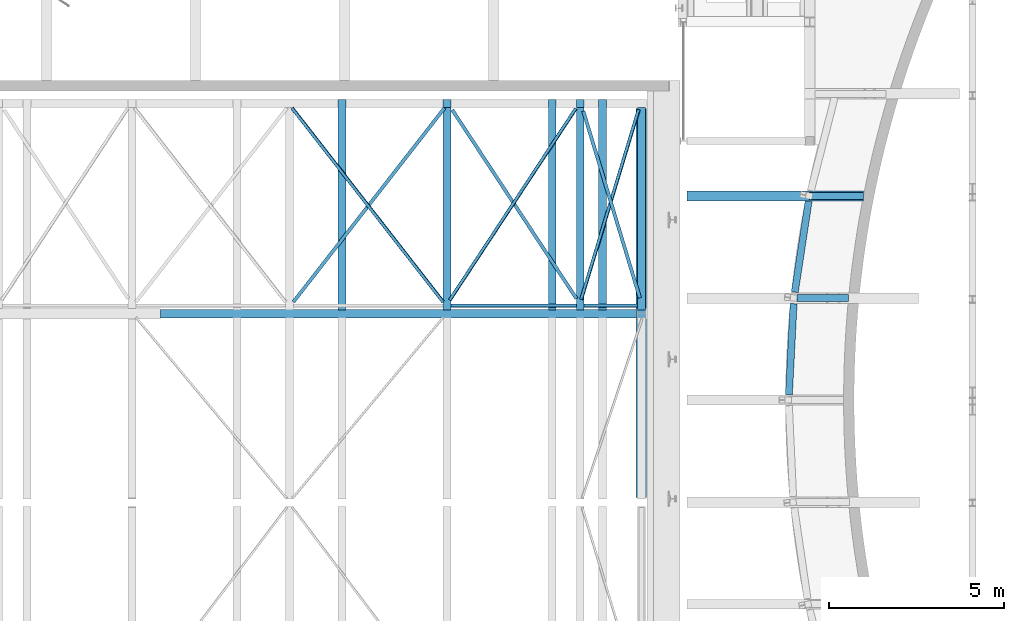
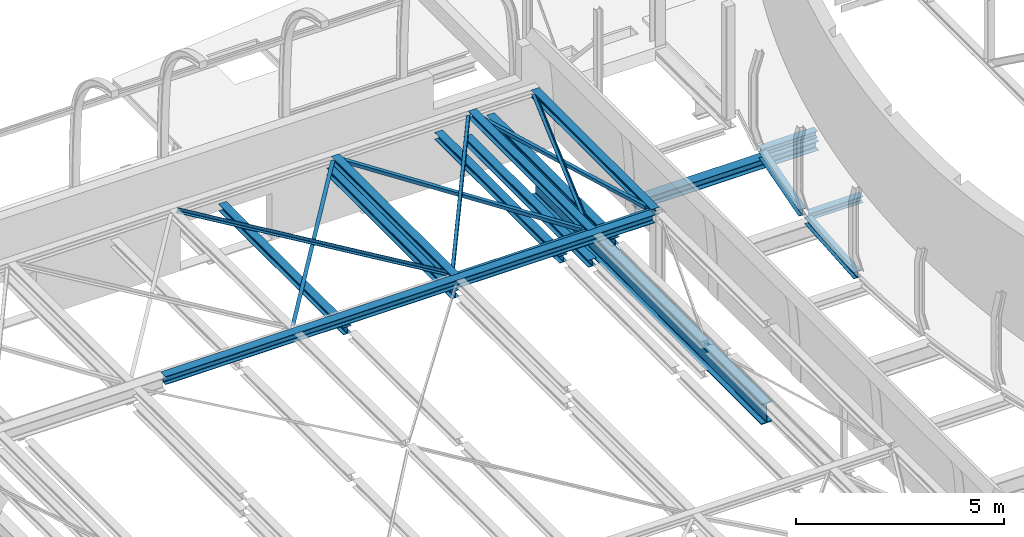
# One storey, part 17 of 38: 23 beams.
"""IFC2X3 building model written with IfcOpenShell, lengths in millimetres."""

from ifc_helpers import new_model, entity, si_unit, converted_unit, derived_unit, direction, frame, frame_2d, origin, place, context, subcontext, project, spatial, polyline, circle_curve, parameter, trimmed, segment, composite_curve, i_section, outline, extrude, material, type_object, element, save


model = new_model("IFC2X3")

# Units and contexts
model_context = context("Model", 3, precision=0.01, world=origin(), true_north=direction((6.12303176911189e-17, 1.0)))
body_context = subcontext(model_context, "Body", "Model", "MODEL_VIEW")
ifc_project = project(units=[si_unit("LENGTHUNIT", "METRE", prefix="MILLI"), si_unit("AREAUNIT", "SQUARE_METRE", prefix="MILLI"), si_unit("VOLUMEUNIT", "CUBIC_METRE"), converted_unit("PLANEANGLEUNIT", "DEGREE", entity("IfcRatioMeasure", 0.0174532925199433), si_unit("PLANEANGLEUNIT", "RADIAN"), dimensions=[0, 0, 0, 0, 0, 0, 0]), si_unit("MASSUNIT", "GRAM", prefix="KILO"), derived_unit("MASSDENSITYUNIT", [(si_unit("MASSUNIT", "GRAM", prefix="KILO"), 1), (si_unit("LENGTHUNIT", "METRE"), -3)]), derived_unit("MOMENTOFINERTIAUNIT", [(si_unit("LENGTHUNIT", "METRE"), 4)]), si_unit("TIMEUNIT", "SECOND"), si_unit("FREQUENCYUNIT", "HERTZ"), si_unit("THERMODYNAMICTEMPERATUREUNIT", "DEGREE_CELSIUS"), derived_unit("THERMALTRANSMITTANCEUNIT", [(si_unit("MASSUNIT", "GRAM", prefix="KILO"), 1), (si_unit("THERMODYNAMICTEMPERATUREUNIT", "KELVIN"), -1), (si_unit("TIMEUNIT", "SECOND"), -3)]), derived_unit("VOLUMETRICFLOWRATEUNIT", [(si_unit("LENGTHUNIT", "METRE"), 3), (si_unit("TIMEUNIT", "SECOND"), -1)]), si_unit("ELECTRICCURRENTUNIT", "AMPERE"), si_unit("ELECTRICVOLTAGEUNIT", "VOLT"), si_unit("POWERUNIT", "WATT"), si_unit("FORCEUNIT", "NEWTON", prefix="KILO"), si_unit("ILLUMINANCEUNIT", "LUX"), si_unit("LUMINOUSFLUXUNIT", "LUMEN"), si_unit("LUMINOUSINTENSITYUNIT", "CANDELA"), derived_unit("USERDEFINED", [(si_unit("MASSUNIT", "GRAM", prefix="KILO"), -1), (si_unit("LENGTHUNIT", "METRE"), -2), (si_unit("TIMEUNIT", "SECOND"), 3), (si_unit("LUMINOUSFLUXUNIT", "LUMEN"), 1)]), derived_unit("LINEARVELOCITYUNIT", [(si_unit("LENGTHUNIT", "METRE"), 1), (si_unit("TIMEUNIT", "SECOND"), -1)]), si_unit("PRESSUREUNIT", "PASCAL"), derived_unit("USERDEFINED", [(si_unit("LENGTHUNIT", "METRE"), -2), (si_unit("MASSUNIT", "GRAM", prefix="KILO"), 1), (si_unit("TIMEUNIT", "SECOND"), -2)]), derived_unit("LINEARFORCEUNIT", [(si_unit("MASSUNIT", "GRAM", prefix="KILO"), 1), (si_unit("LENGTHUNIT", "METRE"), 1), (si_unit("TIMEUNIT", "SECOND"), -2), (si_unit("LENGTHUNIT", "METRE"), -1)]), derived_unit("PLANARFORCEUNIT", [(si_unit("MASSUNIT", "GRAM", prefix="KILO"), 1), (si_unit("LENGTHUNIT", "METRE"), 1), (si_unit("TIMEUNIT", "SECOND"), -2), (si_unit("LENGTHUNIT", "METRE"), -2)])], contexts=[model_context])

# Site, building, storey
site_placement = place(None, origin())
site = spatial("IfcSite", under=ifc_project, at=site_placement, Name="Theater aan de Parade", CompositionType="ELEMENT")
building_placement = place(site_placement, origin())
building = spatial("IfcBuilding", under=site, at=building_placement, Name="Theater aan de Parade", CompositionType="ELEMENT")
storey_placement = place(building_placement, frame((0.0, 0.0, 12480.0)))
storey = spatial("IfcBuildingStorey", under=building, at=storey_placement, Name="03 derde verdieping", CompositionType="ELEMENT", Elevation=12480.0)

# Beams
ifc_material = material(Name="00_PBT_MAT_staal_S355")
beam_type_1 = type_object("IfcBeamType", Name="28_PBT_SF_staal_H-profiel:S355_HE220A", PredefinedType="NOTDEFINED")
beam_1_placement = place(storey_placement, frame((36153.8581300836, 40813.308327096, 1930.0), z_axis=(0.0, 0.0, 1.0), x_axis=(0.0, -1.0, 0.0)))
element("IfcBeam", 1, at=beam_1_placement, inside=storey, type_object=beam_type_1, material=ifc_material, Name="28_PBT_SF_staal_H-profiel:S355_HE220A", ObjectType="28_PBT_SF_staal_H-profiel:S355_HE220A", context=body_context, shape_type="SweptSolid", body=[
    extrude(i_section(OverallWidth=220.000000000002, OverallDepth=210.0, WebThickness=7.00000000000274, FlangeThickness=10.9999999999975, FilletRadius=18.0000000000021, at=frame_2d((0.0, 2.16715534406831e-12), x_axis=(0.0, 1.0))), frame((0.0, 0.0, -105.0), z_axis=(1.0, 0.0, 0.0), x_axis=(0.0, 0.0, -1.0)), (0.0, 0.0, 1.0), 5785.01602859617),
])
beam_2_placement = place(storey_placement, frame((30603.8570025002, 40813.308327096, 1930.0), z_axis=(0.0, 0.0, 1.0), x_axis=(0.0, -1.0, 0.0)))
element("IfcBeam", 2, at=beam_2_placement, inside=storey, type_object=beam_type_1, material=ifc_material, Name="28_PBT_SF_staal_H-profiel:S355_HE220A", ObjectType="28_PBT_SF_staal_H-profiel:S355_HE220A", context=body_context, shape_type="SweptSolid", body=[
    extrude(i_section(OverallWidth=220.000000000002, OverallDepth=210.0, WebThickness=7.00000000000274, FlangeThickness=10.9999999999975, FilletRadius=18.0000000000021, at=frame_2d((0.0, -6.50146603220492e-12), x_axis=(0.0, 1.0))), frame((0.0, 0.0, -105.0), z_axis=(1.0, 0.0, 0.0), x_axis=(0.0, 0.0, -1.0)), (0.0, 0.0, 1.0), 5785.01602859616),
])
beam_3_placement = place(storey_placement, frame((34405.85634631, 40813.308327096, 1930.0), z_axis=(0.0, 0.0, 1.0), x_axis=(0.0, -1.0, 0.0)))
element("IfcBeam", 3, at=beam_3_placement, inside=storey, type_object=beam_type_1, material=ifc_material, Name="28_PBT_SF_staal_H-profiel:S355_HE220A", ObjectType="28_PBT_SF_staal_H-profiel:S355_HE220A", context=body_context, shape_type="SweptSolid", body=[
    extrude(i_section(OverallWidth=220.000000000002, OverallDepth=210.0, WebThickness=7.00000000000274, FlangeThickness=10.9999999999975, FilletRadius=18.0000000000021, at=frame_2d((0.0, 2.16715534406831e-12), x_axis=(0.0, 1.0))), frame((0.0, 0.0, -105.0), z_axis=(1.0, 0.0, 0.0), x_axis=(0.0, 0.0, -1.0)), (0.0, 0.0, 1.0), 5785.01602859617),
])
beam_4_placement = place(storey_placement, frame((27603.8563463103, 41033.308327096, 1930.0), z_axis=(0.0, 0.0, 1.0), x_axis=(0.0, -1.0, 0.0)))
element("IfcBeam", 4, at=beam_4_placement, inside=storey, type_object=beam_type_1, material=ifc_material, Name="28_PBT_SF_staal_H-profiel:S355_HE220A", ObjectType="28_PBT_SF_staal_H-profiel:S355_HE220A", context=body_context, shape_type="SweptSolid", body=[
    extrude(i_section(OverallWidth=220.000000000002, OverallDepth=210.0, WebThickness=7.00000000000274, FlangeThickness=10.9999999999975, FilletRadius=18.0000000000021, at=frame_2d((-2.16715534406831e-12, -2.16715534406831e-12), x_axis=(0.0, 1.0))), frame((0.0, 0.0, -585.0), z_axis=(1.0, 0.0, 0.0), x_axis=(0.0, 0.0, -1.0)), (0.0, 0.0, 1.0), 6005.01602859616),
])
beam_5_placement = place(storey_placement, frame((33603.8563463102, 41033.308327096, 1930.0), z_axis=(0.0, 0.0, 1.0), x_axis=(0.0, -1.0, 0.0)))
element("IfcBeam", 5, at=beam_5_placement, inside=storey, type_object=beam_type_1, material=ifc_material, Name="28_PBT_SF_staal_H-profiel:S355_HE220A", ObjectType="28_PBT_SF_staal_H-profiel:S355_HE220A", context=body_context, shape_type="SweptSolid", body=[
    extrude(i_section(OverallWidth=220.000000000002, OverallDepth=210.0, WebThickness=7.00000000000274, FlangeThickness=10.9999999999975, FilletRadius=18.0000000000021, at=frame_2d((-2.16715534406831e-12, 2.16715534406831e-12), x_axis=(0.0, 1.0))), frame((0.0, 0.0, -585.0), z_axis=(1.0, 0.0, 0.0), x_axis=(0.0, 0.0, -1.0)), (0.0, 0.0, 1.0), 6005.01602859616),
])
beam_6_placement = place(storey_placement, frame((35043.8557463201, 41033.308327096, 1930.0), z_axis=(0.0, 0.0, 1.0), x_axis=(0.0, -1.0, 0.0)))
element("IfcBeam", 6, at=beam_6_placement, inside=storey, type_object=beam_type_1, material=ifc_material, Name="28_PBT_SF_staal_H-profiel:S355_HE220A", ObjectType="28_PBT_SF_staal_H-profiel:S355_HE220A", context=body_context, shape_type="SweptSolid", body=[
    extrude(i_section(OverallWidth=220.000000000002, OverallDepth=210.0, WebThickness=7.00000000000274, FlangeThickness=10.9999999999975, FilletRadius=18.0000000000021, at=frame_2d((-2.16715534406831e-12, -6.50146603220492e-12), x_axis=(0.0, 1.0))), frame((0.0, 0.0, -585.0), z_axis=(1.0, 0.0, 0.0), x_axis=(0.0, 0.0, -1.0)), (0.0, 0.0, 1.0), 6005.01602859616),
])
beam_7_placement = place(storey_placement, frame((30603.8570025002, 41033.308327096, 1930.0), z_axis=(0.0, 0.0, 1.0), x_axis=(0.0, -1.0, 0.0)))
element("IfcBeam", 7, at=beam_7_placement, inside=storey, type_object=beam_type_1, material=ifc_material, Name="28_PBT_SF_staal_H-profiel:S355_HE220A", ObjectType="28_PBT_SF_staal_H-profiel:S355_HE220A", context=body_context, shape_type="SweptSolid", body=[
    extrude(i_section(OverallWidth=220.000000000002, OverallDepth=210.0, WebThickness=7.00000000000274, FlangeThickness=10.9999999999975, FilletRadius=18.0000000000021, at=frame_2d((0.0, 2.16715534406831e-12), x_axis=(0.0, 1.0))), frame((0.0, 0.0, -585.0), z_axis=(1.0, 0.0, 0.0), x_axis=(0.0, 0.0, -1.0)), (0.0, 0.0, 1.0), 6005.01602859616),
])
beam_8_placement = place(storey_placement, frame((34405.85634631, 41033.308327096, 1930.0), z_axis=(0.0, 0.0, 1.0), x_axis=(0.0, -1.0, 0.0)))
element("IfcBeam", 8, at=beam_8_placement, inside=storey, type_object=beam_type_1, material=ifc_material, Name="28_PBT_SF_staal_H-profiel:S355_HE220A", ObjectType="28_PBT_SF_staal_H-profiel:S355_HE220A", context=body_context, shape_type="SweptSolid", body=[
    extrude(i_section(OverallWidth=220.000000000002, OverallDepth=210.0, WebThickness=7.00000000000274, FlangeThickness=10.9999999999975, FilletRadius=18.0000000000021, at=frame_2d((0.0, 6.50146603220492e-12), x_axis=(0.0, 1.0))), frame((0.0, 0.0, -985.0), z_axis=(1.0, 0.0, 0.0), x_axis=(0.0, 0.0, -1.0)), (0.0, 0.0, 1.0), 6005.01602859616),
])
beam_type_2 = type_object("IfcBeamType", Name="28_PBT_SF_staal_H-profiel:S355_HE600B", PredefinedType="NOTDEFINED")
beam_9_placement = place(storey_placement, frame((36153.8581300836, 29658.2922984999, 0.0), z_axis=(0.0, 0.0, 1.0), x_axis=(0.0, 1.0, 0.0)))
element("IfcBeam", 9, at=beam_9_placement, inside=storey, type_object=beam_type_2, material=ifc_material, Name="28_PBT_SF_staal_H-profiel:S355_HE600B", ObjectType="28_PBT_SF_staal_H-profiel:S355_HE600B", context=body_context, shape_type="SweptSolid", body=[
    extrude(outline(composite_curve([segment(polyline([(270.0, -150.0), (300.0, -150.0)]), True, "CONTINUOUS"), segment(polyline([(300.0, -150.0), (300.0, 150.0)]), True, "CONTINUOUS"), segment(polyline([(300.0, 150.0), (270.0, 150.0)]), True, "CONTINUOUS"), segment(polyline([(270.0, 150.0), (270.0, 34.7500000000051)]), True, "CONTINUOUS"), segment(trimmed(circle_curve(frame_2d((243.0, 34.7500000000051), x_axis=(1.0, 0.0)), 26.9999999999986), [parameter(269.999999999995)], [parameter(0.0)], True, "PARAMETER"), False, "CONTINUOUS"), segment(polyline([(243.0, 7.7500000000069), (-243.0, 7.7500000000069)]), True, "CONTINUOUS"), segment(trimmed(circle_curve(frame_2d((-243.0, 34.7500000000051), x_axis=(0.0, -1.0)), 26.9999999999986), [parameter(269.999999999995)], [parameter(0.0)], True, "PARAMETER"), False, "CONTINUOUS"), segment(polyline([(-270.0, 34.7500000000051), (-270.0, 150.0)]), True, "CONTINUOUS"), segment(polyline([(-270.0, 150.0), (-300.0, 150.0)]), True, "CONTINUOUS"), segment(polyline([(-300.0, 150.0), (-300.0, -150.0)]), True, "CONTINUOUS"), segment(polyline([(-300.0, -150.0), (-270.0, -150.0)]), True, "CONTINUOUS"), segment(polyline([(-270.0, -150.0), (-270.0, -34.7499999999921)]), True, "CONTINUOUS"), segment(trimmed(circle_curve(frame_2d((-243.0, -34.7499999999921), x_axis=(-1.0, 0.0)), 26.9999999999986), [parameter(269.999999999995)], [parameter(0.0)], True, "PARAMETER"), False, "CONTINUOUS"), segment(polyline([(-243.0, -7.74999999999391), (243.0, -7.74999999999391)]), True, "CONTINUOUS"), segment(trimmed(circle_curve(frame_2d((243.0, -34.7499999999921), x_axis=(0.0, 1.0)), 26.9999999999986), [parameter(269.999999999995)], [parameter(0.0)], True, "PARAMETER"), False, "CONTINUOUS"), segment(polyline([(270.0, -34.7499999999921), (270.0, -150.0)]), True, "CONTINUOUS")], self_intersect=False)), frame((12.7000006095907, 0.0, -830.0), z_axis=(1.0, 0.0, 0.0), x_axis=(0.0, 0.0, -1.0)), (0.0, 0.0, 1.0), 11112.3160279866),
])
beam_type_3 = type_object("IfcBeamType", Name="28_PBT_SF_staal_H-profiel:S355_HE200A", PredefinedType="NOTDEFINED")
beam_10_placement = place(storey_placement, frame((40929.7205975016, 38128.3319899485, 0.0), z_axis=(0.0, 0.0, 1.0), x_axis=(-0.15010695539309, -0.988669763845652, 0.0)))
element("IfcBeam", 10, at=beam_10_placement, inside=storey, type_object=beam_type_3, material=ifc_material, Name="28_PBT_SF_staal_H-profiel:S355_HE200A", ObjectType="28_PBT_SF_staal_H-profiel:S355_HE200A", context=body_context, shape_type="SweptSolid", body=[
    extrude(i_section(OverallWidth=199.999999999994, OverallDepth=190.0, WebThickness=6.49999999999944, FlangeThickness=9.99999999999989, FilletRadius=18.0000000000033, at=frame_2d((-2.16715534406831e-12, 0.0), x_axis=(0.0, 1.0))), frame((0.0, 0.0, -25.0), z_axis=(1.0, 0.0, 0.0), x_axis=(0.0, 0.0, -1.0)), (0.0, 0.0, 1.0), 2625.0),
])
beam_11_placement = place(storey_placement, frame((40500.8443361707, 35201.3286349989, 0.0), z_axis=(0.0, 0.0, 1.0), x_axis=(-0.0516087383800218, -0.998667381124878, 0.0)))
element("IfcBeam", 11, at=beam_11_placement, inside=storey, type_object=beam_type_3, material=ifc_material, Name="28_PBT_SF_staal_H-profiel:S355_HE200A", ObjectType="28_PBT_SF_staal_H-profiel:S355_HE200A", context=body_context, shape_type="SweptSolid", body=[
    extrude(i_section(OverallWidth=199.999999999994, OverallDepth=190.0, WebThickness=6.4999999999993, FlangeThickness=9.99999999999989, FilletRadius=18.0000000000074, at=frame_2d((-2.16715534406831e-12, -4.32720526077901e-12), x_axis=(0.0, 1.0))), frame((0.0, 0.0, -25.0), z_axis=(1.0, 0.0, 0.0), x_axis=(0.0, 0.0, -1.0)), (0.0, 0.0, 1.0), 2605.00000000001),
])
beam_12_placement = place(storey_placement, frame((40592.5436905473, 35365.0, 0.0)))
element("IfcBeam", 12, at=beam_12_placement, inside=storey, type_object=beam_type_3, material=ifc_material, Name="28_PBT_SF_staal_H-profiel:S355_HE200A", ObjectType="28_PBT_SF_staal_H-profiel:S355_HE200A", context=body_context, shape_type="SweptSolid", body=[
    extrude(i_section(OverallWidth=200.000000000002, OverallDepth=190.0, WebThickness=6.50000000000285, FlangeThickness=9.99999999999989, FilletRadius=18.0000000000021, at=frame_2d((-2.16715534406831e-12, 2.16715534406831e-12), x_axis=(0.0, 1.0))), frame((0.0, 0.0, -25.0), z_axis=(1.0, 0.0, 0.0), x_axis=(0.0, 0.0, -1.0)), (0.0, 0.0, 1.0), 1477.86083352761),
])
beam_13_placement = place(storey_placement, frame((40947.0612102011, 38280.0, 0.0)))
element("IfcBeam", 13, at=beam_13_placement, inside=storey, type_object=beam_type_3, material=ifc_material, Name="28_PBT_SF_staal_H-profiel:S355_HE200A", ObjectType="28_PBT_SF_staal_H-profiel:S355_HE200A", context=body_context, shape_type="SweptSolid", body=[
    extrude(i_section(OverallWidth=200.000000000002, OverallDepth=190.0, WebThickness=6.50000000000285, FlangeThickness=9.99999999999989, FilletRadius=18.0000000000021, at=frame_2d((-2.16715534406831e-12, -2.16715534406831e-12), x_axis=(0.0, 1.0))), frame((0.0, 0.0, -25.0), z_axis=(1.0, 0.0, 0.0), x_axis=(0.0, 0.0, -1.0)), (0.0, 0.0, 1.0), 1545.48248034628),
])
beam_type_4 = type_object("IfcBeamType", Name="28_PBT_SF_staal_H-profiel:S355_HE240B", PredefinedType="NOTDEFINED")
beam_14_placement = place(storey_placement, frame((22419.8569884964, 34918.2922984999, 1810.0)))
element("IfcBeam", 14, at=beam_14_placement, inside=storey, type_object=beam_type_4, material=ifc_material, Name="28_PBT_SF_staal_H-profiel:S355_HE240B", ObjectType="28_PBT_SF_staal_H-profiel:S355_HE240B", context=body_context, shape_type="SweptSolid", body=[
    extrude(i_section(OverallWidth=240.000000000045, OverallDepth=240.0, WebThickness=9.9999999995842, FlangeThickness=16.9999999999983, FilletRadius=21.0000000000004, at=frame_2d((-1.08002495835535e-12, 2.16715534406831e-12), x_axis=(0.0, 1.0))), frame((0.0, 0.0, 0.0), z_axis=(1.0, 0.0, 0.0), x_axis=(0.0, 0.0, -1.0)), (0.0, 0.0, 1.0), 13594.0),
])
beam_type_5 = type_object("IfcBeamType", Name="28_PBT_SF_staal_L-profiel:S355_L100x100x10", PredefinedType="NOTDEFINED")
beam_15_placement = place(storey_placement, frame((30603.8570025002, 35146.2906195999, 1930.0), z_axis=(0.0, 0.0, 1.0), x_axis=(-0.614515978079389, 0.788904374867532, 0.0)))
element("IfcBeam", 15, at=beam_15_placement, inside=storey, type_object=beam_type_5, material=ifc_material, Name="28_PBT_SF_staal_L-profiel:S355_L100x100x10", ObjectType="28_PBT_SF_staal_L-profiel:S355_L100x100x10", context=body_context, shape_type="SweptSolid", body=[
    extrude(outline(composite_curve([segment(polyline([(-62.2222222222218, -37.777777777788), (37.7777777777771, -37.777777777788)]), True, "CONTINUOUS"), segment(polyline([(37.7777777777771, -37.777777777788), (37.7777777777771, 62.2222222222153)]), True, "CONTINUOUS"), segment(polyline([(37.7777777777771, 62.2222222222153), (33.777777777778, 62.2222222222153)]), True, "CONTINUOUS"), segment(trimmed(circle_curve(frame_2d((33.777777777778, 56.2222222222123), x_axis=(0.0, 1.0)), 5.99999999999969), [parameter(0.0)], [parameter(90.0000000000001)], True, "PARAMETER"), True, "CONTINUOUS"), segment(polyline([(27.7777777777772, 56.2222222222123), (27.7777777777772, -15.7777777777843)]), True, "CONTINUOUS"), segment(trimmed(circle_curve(frame_2d((15.7777777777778, -15.7777777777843), x_axis=(1.0, 0.0)), 12.0000000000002), [parameter(270.000000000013)], [parameter(0.0)], True, "PARAMETER"), False, "CONTINUOUS"), segment(polyline([(15.7777777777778, -27.7777777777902), (-56.2222222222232, -27.7777777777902)]), True, "CONTINUOUS"), segment(trimmed(circle_curve(frame_2d((-56.2222222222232, -33.7777777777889), x_axis=(0.0, 1.0)), 6.00000000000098), [parameter(0.0)], [parameter(89.9999999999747)], True, "PARAMETER"), True, "CONTINUOUS"), segment(polyline([(-62.2222222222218, -33.7777777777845), (-62.2222222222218, -37.777777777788)]), True, "CONTINUOUS")], self_intersect=False)), frame((150.0, 9.57777777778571, -67.2222222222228), z_axis=(1.0, 0.0, 0.0), x_axis=(0.0, 0.0, -1.0)), (0.0, 0.0, 1.0), 7022.83644448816),
])
beam_16_placement = place(storey_placement, frame((26103.8570025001, 35146.2906196, 1930.0), z_axis=(0.0, 0.0, 1.0), x_axis=(0.614515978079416, 0.788904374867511, 0.0)))
element("IfcBeam", 16, at=beam_16_placement, inside=storey, type_object=beam_type_5, material=ifc_material, Name="28_PBT_SF_staal_L-profiel:S355_L100x100x10", ObjectType="28_PBT_SF_staal_L-profiel:S355_L100x100x10", context=body_context, shape_type="SweptSolid", body=[
    extrude(outline(composite_curve([segment(polyline([(-37.777777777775, -62.2222222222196), (-33.7777777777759, -62.2222222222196)]), True, "CONTINUOUS"), segment(trimmed(circle_curve(frame_2d((-33.7777777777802, -56.2222222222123), x_axis=(0.0, -1.0)), 6.000000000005), [parameter(0.0)], [parameter(89.9999999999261)], True, "PARAMETER"), True, "CONTINUOUS"), segment(polyline([(-27.7777777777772, -56.2222222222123), (-27.7777777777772, 15.77777777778)]), True, "CONTINUOUS"), segment(trimmed(circle_curve(frame_2d((-15.7777777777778, 15.77777777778), x_axis=(-1.0, 0.0)), 11.9999999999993), [parameter(270.0)], [parameter(0.0)], True, "PARAMETER"), False, "CONTINUOUS"), segment(polyline([(-15.7777777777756, 27.7777777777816), (56.2222222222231, 27.7777777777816)]), True, "CONTINUOUS"), segment(trimmed(circle_curve(frame_2d((56.2222222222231, 33.7777777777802), x_axis=(0.0, -1.0)), 5.99999999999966), [parameter(0.0)], [parameter(90.0000000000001)], True, "PARAMETER"), True, "CONTINUOUS"), segment(polyline([(62.2222222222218, 33.7777777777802), (62.2222222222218, 37.7777777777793)]), True, "CONTINUOUS"), segment(polyline([(62.2222222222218, 37.7777777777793), (-37.7777777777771, 37.7777777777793)]), True, "CONTINUOUS"), segment(polyline([(-37.7777777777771, 37.7777777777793), (-37.7777777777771, -62.2222222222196)]), True, "CONTINUOUS")], self_intersect=False)), frame((150.0, -9.57777777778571, -144.577777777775), z_axis=(1.0, 0.0, 0.0), x_axis=(0.0, 0.0, -1.0)), (0.0, 0.0, 1.0), 7022.83644448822),
])
beam_17_placement = place(storey_placement, frame((34405.85634631, 40923.308327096, 1930.0), z_axis=(0.0, 0.0, 1.0), x_axis=(-0.549750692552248, -0.835328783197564, 0.0)))
element("IfcBeam", 17, at=beam_17_placement, inside=storey, type_object=beam_type_5, material=ifc_material, Name="28_PBT_SF_staal_L-profiel:S355_L100x100x10", ObjectType="28_PBT_SF_staal_L-profiel:S355_L100x100x10", context=body_context, shape_type="SweptSolid", body=[
    extrude(outline(composite_curve([segment(polyline([(33.777777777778, -62.2222222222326), (37.7777777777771, -62.2222222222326)]), True, "CONTINUOUS"), segment(polyline([(37.7777777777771, -62.2222222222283), (37.7777777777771, 37.777777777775)]), True, "CONTINUOUS"), segment(polyline([(37.7777777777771, 37.777777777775), (-62.2222222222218, 37.777777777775)]), True, "CONTINUOUS"), segment(polyline([(-62.2222222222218, 37.777777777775), (-62.2222222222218, 33.7777777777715)]), True, "CONTINUOUS"), segment(trimmed(circle_curve(frame_2d((-56.222222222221, 33.7777777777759), x_axis=(-1.0, 0.0)), 6.00000000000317), [parameter(0.0)], [parameter(89.9999999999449)], True, "PARAMETER"), True, "CONTINUOUS"), segment(polyline([(-56.2222222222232, 27.7777777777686), (15.7777777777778, 27.7777777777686)]), True, "CONTINUOUS"), segment(trimmed(circle_curve(frame_2d((15.77777777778, 15.777777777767), x_axis=(0.0, 1.0)), 11.9999999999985), [parameter(269.99999999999)], [parameter(0.0)], True, "PARAMETER"), False, "CONTINUOUS"), segment(polyline([(27.7777777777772, 15.777777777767), (27.7777777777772, -56.222222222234)]), True, "CONTINUOUS"), segment(trimmed(circle_curve(frame_2d((33.7777777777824, -56.222222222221), x_axis=(-1.0, 0.0)), 6.00000000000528), [parameter(0.0)], [parameter(89.9999999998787)], True, "PARAMETER"), True, "CONTINUOUS")], self_intersect=False)), frame((190.660842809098, -9.57777777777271, -67.2222222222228), z_axis=(1.0, 0.0, 0.0), x_axis=(0.0, 0.0, -1.0)), (0.0, 0.0, 1.0), 6549.24835976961),
])
beam_18_placement = place(storey_placement, frame((30603.8563463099, 40923.308327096, 1930.0), z_axis=(0.0, 0.0, 1.0), x_axis=(0.549750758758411, -0.835328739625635, 0.0)))
element("IfcBeam", 18, at=beam_18_placement, inside=storey, type_object=beam_type_5, material=ifc_material, Name="28_PBT_SF_staal_L-profiel:S355_L100x100x10", ObjectType="28_PBT_SF_staal_L-profiel:S355_L100x100x10", context=body_context, shape_type="SweptSolid", body=[
    extrude(outline(composite_curve([segment(polyline([(-37.7777777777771, -37.777777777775), (62.2222222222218, -37.777777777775)]), True, "CONTINUOUS"), segment(polyline([(62.2222222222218, -37.777777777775), (62.2222222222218, -33.7777777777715)]), True, "CONTINUOUS"), segment(trimmed(circle_curve(frame_2d((56.2222222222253, -33.7777777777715), x_axis=(1.0, 0.0)), 5.99999999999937), [parameter(0.0)], [parameter(90.0000000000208)], True, "PARAMETER"), True, "CONTINUOUS"), segment(polyline([(56.2222222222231, -27.7777777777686), (-15.7777777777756, -27.7777777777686)]), True, "CONTINUOUS"), segment(trimmed(circle_curve(frame_2d((-15.7777777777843, -15.7777777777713), x_axis=(0.0, -1.0)), 11.9999999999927), [parameter(269.999999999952)], [parameter(0.0)], True, "PARAMETER"), False, "CONTINUOUS"), segment(polyline([(-27.7777777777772, -15.777777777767), (-27.7777777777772, 56.222222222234)]), True, "CONTINUOUS"), segment(trimmed(circle_curve(frame_2d((-33.7777777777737, 56.2222222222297), x_axis=(1.0, 0.0)), 5.99999999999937), [parameter(0.0)], [parameter(90.0000000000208)], True, "PARAMETER"), True, "CONTINUOUS"), segment(polyline([(-33.7777777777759, 62.2222222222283), (-37.777777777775, 62.2222222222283)]), True, "CONTINUOUS"), segment(polyline([(-37.7777777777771, 62.2222222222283), (-37.7777777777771, -37.777777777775)]), True, "CONTINUOUS")], self_intersect=False)), frame((235.529860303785, 9.57777777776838, -144.577777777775), z_axis=(1.0, 0.0, 0.0), x_axis=(0.0, 0.0, -1.0)), (0.0, 0.0, 1.0), 6454.54412103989),
])
beam_19_placement = place(storey_placement, frame((36153.8581300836, 40923.308327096, 1930.0), z_axis=(0.0, 0.0, 1.0), x_axis=(-0.289611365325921, -0.957144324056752, 0.0)))
element("IfcBeam", 19, at=beam_19_placement, inside=storey, type_object=beam_type_5, material=ifc_material, Name="28_PBT_SF_staal_L-profiel:S355_L100x100x10", ObjectType="28_PBT_SF_staal_L-profiel:S355_L100x100x10", context=body_context, shape_type="SweptSolid", body=[
    extrude(outline(composite_curve([segment(polyline([(33.777777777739, -62.2222222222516), (37.7777777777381, -62.222222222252)]), True, "CONTINUOUS"), segment(polyline([(37.7777777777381, -62.2222222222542), (37.7777777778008, 37.7777777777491)]), True, "CONTINUOUS"), segment(polyline([(37.7777777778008, 37.7777777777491), (-62.2222222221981, 37.7777777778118)]), True, "CONTINUOUS"), segment(polyline([(-62.2222222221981, 37.7777777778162), (-62.2222222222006, 33.7777777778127)]), True, "CONTINUOUS"), segment(trimmed(circle_curve(frame_2d((-56.222222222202, 33.777777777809), x_axis=(-1.0, 0.0)), 6.00000000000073), [parameter(0.0)], [parameter(90.0000000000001)], True, "PARAMETER"), True, "CONTINUOUS"), segment(polyline([(-56.2222222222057, 27.7777777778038), (15.7777777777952, 27.7777777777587)]), True, "CONTINUOUS"), segment(trimmed(circle_curve(frame_2d((15.7777777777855, 15.7777777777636), x_axis=(0.0, 1.0)), 12.0000000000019), [parameter(270.00000000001)], [parameter(0.0)], True, "PARAMETER"), False, "CONTINUOUS"), segment(polyline([(27.7777777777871, 15.777777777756), (27.777777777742, -56.2222222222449)]), True, "CONTINUOUS"), segment(trimmed(circle_curve(frame_2d((33.7777777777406, -56.2222222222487), x_axis=(-1.0, 0.0)), 5.99999999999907), [parameter(0.0)], [parameter(90.0000000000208)], True, "PARAMETER"), True, "CONTINUOUS")], self_intersect=False)), frame((190.660842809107, -9.57777777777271, -67.2222222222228), z_axis=(1.0, 0.0, 0.0), x_axis=(0.0, 0.0, -1.0)), (0.0, 0.0, 1.0), 5669.06830720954),
])
beam_20_placement = place(storey_placement, frame((34405.8587869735, 40923.308327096, 1930.0), z_axis=(0.0, 0.0, 1.0), x_axis=(0.289610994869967, -0.957144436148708, 0.0)))
element("IfcBeam", 20, at=beam_20_placement, inside=storey, type_object=beam_type_5, material=ifc_material, Name="28_PBT_SF_staal_L-profiel:S355_L100x100x10", ObjectType="28_PBT_SF_staal_L-profiel:S355_L100x100x10", context=body_context, shape_type="SweptSolid", body=[
    extrude(outline(composite_curve([segment(polyline([(-37.7777777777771, -37.7777777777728), (62.2222222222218, -37.7777777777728)]), True, "CONTINUOUS"), segment(polyline([(62.2222222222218, -37.7777777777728), (62.2222222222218, -33.7777777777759)]), True, "CONTINUOUS"), segment(trimmed(circle_curve(frame_2d((56.222222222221, -33.7777777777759), x_axis=(1.0, 0.0)), 6.00000000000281), [parameter(0.0)], [parameter(89.9999999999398)], True, "PARAMETER"), True, "CONTINUOUS"), segment(polyline([(56.2222222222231, -27.7777777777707), (-15.7777777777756, -27.7777777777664)]), True, "CONTINUOUS"), segment(trimmed(circle_curve(frame_2d((-15.77777777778, -15.7777777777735), x_axis=(0.0, -1.0)), 11.9999999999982), [parameter(269.99999999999)], [parameter(0.0)], True, "PARAMETER"), False, "CONTINUOUS"), segment(polyline([(-27.7777777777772, -15.7777777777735), (-27.7777777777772, 56.2222222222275)]), True, "CONTINUOUS"), segment(trimmed(circle_curve(frame_2d((-33.777777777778, 56.2222222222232), x_axis=(1.0, 0.0)), 6.00000000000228), [parameter(0.0)], [parameter(89.9999999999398)], True, "PARAMETER"), True, "CONTINUOUS"), segment(polyline([(-33.7777777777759, 62.2222222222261), (-37.777777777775, 62.2222222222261)]), True, "CONTINUOUS"), segment(polyline([(-37.7777777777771, 62.2222222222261), (-37.7777777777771, -37.7777777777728)]), True, "CONTINUOUS")], self_intersect=False)), frame((235.529860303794, 9.57777777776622, -144.577777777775), z_axis=(1.0, 0.0, 0.0), x_axis=(0.0, 0.0, -1.0)), (0.0, 0.0, 1.0), 5574.36300089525),
])
beam_type_6 = type_object("IfcBeamType", Name="28_PBT_SF_staal_H-profiel:S355_HE280A", PredefinedType="NOTDEFINED")
beam_21_placement = place(storey_placement, frame((37453.8581300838, 38280.0, 0.0)))
element("IfcBeam", 21, at=beam_21_placement, inside=storey, type_object=beam_type_6, material=ifc_material, Name="28_PBT_SF_staal_H-profiel:S355_HE280A", ObjectType="28_PBT_SF_staal_H-profiel:S355_HE280A", context=body_context, shape_type="SweptSolid", body=[
    extrude(i_section(OverallWidth=280.000000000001, OverallDepth=269.999999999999, WebThickness=8.00000000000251, FlangeThickness=12.9999999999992, FilletRadius=23.9999999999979, at=frame_2d((-2.1600499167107e-12, 6.49436060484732e-12), x_axis=(0.0, 1.0))), frame((0.0, 0.0, -340.0), z_axis=(1.0, 0.0, 0.0), x_axis=(0.0, 0.0, -1.0)), (0.0, 0.0, 1.0), 5041.73359425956),
])
beam_type_7 = type_object("IfcBeamType", Name="28_PBT_SF_staal_koker:S355_K100x100x8", PredefinedType="NOTDEFINED")
beam_22_placement = place(storey_placement, frame((30713.8570025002, 35146.2906195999, 1930.0)))
element("IfcBeam", 22, at=beam_22_placement, inside=storey, type_object=beam_type_7, material=ifc_material, Name="28_PBT_SF_staal_koker:S355_K100x100x8", ObjectType="28_PBT_SF_staal_koker:S355_K100x100x8", context=body_context, shape_type="SweptSolid", body=[
    extrude(outline(composite_curve([segment(polyline([(-38.0, -50.0), (38.0, -50.0)]), True, "CONTINUOUS"), segment(trimmed(circle_curve(frame_2d((38.0, -38.0), x_axis=(0.0, 1.0)), 12.0), [parameter(180.0)], [parameter(270.0)], True, "PARAMETER"), True, "CONTINUOUS"), segment(polyline([(50.0, -38.0), (50.0, 38.0)]), True, "CONTINUOUS"), segment(trimmed(circle_curve(frame_2d((38.0, 38.0), x_axis=(0.0, 1.0)), 12.0), [parameter(270.0)], [parameter(360.0)], True, "PARAMETER"), True, "CONTINUOUS"), segment(polyline([(38.0, 50.0), (-38.0, 50.0)]), True, "CONTINUOUS"), segment(trimmed(circle_curve(frame_2d((-38.0, 38.0), x_axis=(0.0, 1.0)), 12.0), [parameter(0.0)], [parameter(90.0000000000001)], True, "PARAMETER"), True, "CONTINUOUS"), segment(polyline([(-50.0, 38.0), (-50.0, -38.0)]), True, "CONTINUOUS"), segment(trimmed(circle_curve(frame_2d((-38.0, -38.0), x_axis=(0.0, 1.0)), 12.0), [parameter(90.0)], [parameter(180.0)], True, "PARAMETER"), True, "CONTINUOUS")], self_intersect=False), holes=[composite_curve([segment(polyline([(42.0, 34.0), (42.0, -34.0)]), True, "CONTINUOUS"), segment(trimmed(circle_curve(frame_2d((34.0, -34.0), x_axis=(0.0, 1.0)), 8.0), [parameter(180.0)], [parameter(270.0)], True, "PARAMETER"), False, "CONTINUOUS"), segment(polyline([(34.0, -42.0), (-34.0, -42.0)]), True, "CONTINUOUS"), segment(trimmed(circle_curve(frame_2d((-34.0, -34.0), x_axis=(0.0, 1.0)), 8.0), [parameter(90.0)], [parameter(180.0)], True, "PARAMETER"), False, "CONTINUOUS"), segment(polyline([(-42.0, -34.0), (-42.0, 34.0)]), True, "CONTINUOUS"), segment(trimmed(circle_curve(frame_2d((-34.0, 34.0), x_axis=(0.0, 1.0)), 8.0), [parameter(3.56222124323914e-13)], [parameter(90.0000000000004)], True, "PARAMETER"), False, "CONTINUOUS"), segment(polyline([(-34.0, 42.0), (34.0, 42.0)]), True, "CONTINUOUS"), segment(trimmed(circle_curve(frame_2d((34.0, 34.0), x_axis=(0.0, 1.0)), 8.0), [parameter(270.0)], [parameter(5.08888749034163e-14)], True, "PARAMETER"), False, "CONTINUOUS")], self_intersect=False)]), frame((0.0, 0.0, -110.0), z_axis=(1.0, 0.0, 0.0), x_axis=(0.0, 0.0, 1.0)), (0.0, 0.0, 1.0), 3582.00000000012),
])
beam_23_placement = place(storey_placement, frame((34515.85634631, 35146.2906195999, 1930.0)))
element("IfcBeam", 23, at=beam_23_placement, inside=storey, type_object=beam_type_7, material=ifc_material, Name="28_PBT_SF_staal_koker:S355_K100x100x8", ObjectType="28_PBT_SF_staal_koker:S355_K100x100x8", context=body_context, shape_type="SweptSolid", body=[
    extrude(outline(composite_curve([segment(polyline([(-38.0, -50.0), (38.0, -50.0)]), True, "CONTINUOUS"), segment(trimmed(circle_curve(frame_2d((38.0, -38.0), x_axis=(0.0, 1.0)), 12.0), [parameter(180.0)], [parameter(270.0)], True, "PARAMETER"), True, "CONTINUOUS"), segment(polyline([(50.0, -38.0), (50.0, 38.0)]), True, "CONTINUOUS"), segment(trimmed(circle_curve(frame_2d((38.0, 38.0), x_axis=(0.0, 1.0)), 12.0), [parameter(270.0)], [parameter(360.0)], True, "PARAMETER"), True, "CONTINUOUS"), segment(polyline([(38.0, 50.0), (-38.0, 50.0)]), True, "CONTINUOUS"), segment(trimmed(circle_curve(frame_2d((-38.0, 38.0), x_axis=(0.0, 1.0)), 12.0), [parameter(0.0)], [parameter(90.0000000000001)], True, "PARAMETER"), True, "CONTINUOUS"), segment(polyline([(-50.0, 38.0), (-50.0, -38.0)]), True, "CONTINUOUS"), segment(trimmed(circle_curve(frame_2d((-38.0, -38.0), x_axis=(0.0, 1.0)), 12.0), [parameter(90.0)], [parameter(180.0)], True, "PARAMETER"), True, "CONTINUOUS")], self_intersect=False), holes=[composite_curve([segment(polyline([(42.0, 34.0), (42.0, -34.0)]), True, "CONTINUOUS"), segment(trimmed(circle_curve(frame_2d((34.0, -34.0), x_axis=(0.0, 1.0)), 8.0), [parameter(180.0)], [parameter(270.0)], True, "PARAMETER"), False, "CONTINUOUS"), segment(polyline([(34.0, -42.0), (-34.0, -42.0)]), True, "CONTINUOUS"), segment(trimmed(circle_curve(frame_2d((-34.0, -34.0), x_axis=(0.0, 1.0)), 8.0), [parameter(90.0)], [parameter(180.0)], True, "PARAMETER"), False, "CONTINUOUS"), segment(polyline([(-42.0, -34.0), (-42.0, 34.0)]), True, "CONTINUOUS"), segment(trimmed(circle_curve(frame_2d((-34.0, 34.0), x_axis=(0.0, 1.0)), 8.0), [parameter(3.56222124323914e-13)], [parameter(90.0000000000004)], True, "PARAMETER"), False, "CONTINUOUS"), segment(polyline([(-34.0, 42.0), (34.0, 42.0)]), True, "CONTINUOUS"), segment(trimmed(circle_curve(frame_2d((34.0, 34.0), x_axis=(0.0, 1.0)), 8.0), [parameter(270.0)], [parameter(5.08888749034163e-14)], True, "PARAMETER"), False, "CONTINUOUS")], self_intersect=False)]), frame((0.0, 0.0, -110.0), z_axis=(1.0, 0.0, 0.0), x_axis=(0.0, 0.0, 1.0)), (0.0, 0.0, 1.0), 1528.00178377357),
])

save(model, "model.ifc")
